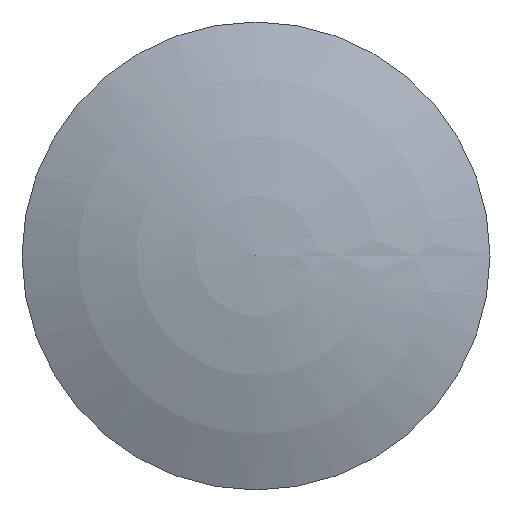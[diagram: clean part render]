
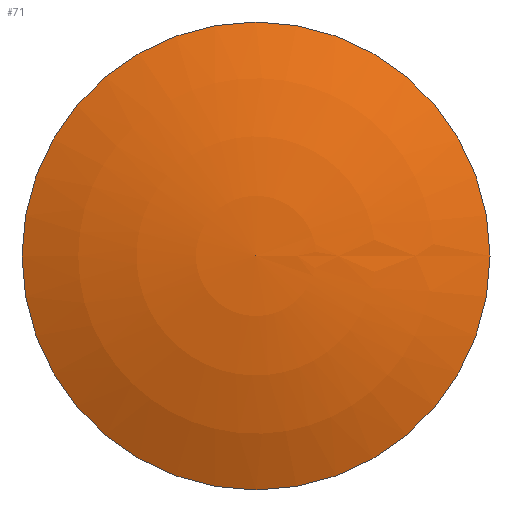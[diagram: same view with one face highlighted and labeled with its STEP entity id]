
A CAD part, top view. The second image highlights one B-rep face of the part: STEP entity #71.
In plain terms, the highlighted spherical face has radius 47.125 mm.
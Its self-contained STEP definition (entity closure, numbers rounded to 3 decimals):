
#15=SPHERICAL_SURFACE('',#84,47.125);
#29=FACE_OUTER_BOUND('',#39,.T.);
#39=EDGE_LOOP('',(#64));
#44=CIRCLE('',#83,19.);
#49=VERTEX_POINT('',#123);
#54=EDGE_CURVE('',#49,#49,#44,.T.);
#64=ORIENTED_EDGE('',*,*,#54,.T.);
#71=ADVANCED_FACE('',(#29),#15,.T.);
#83=AXIS2_PLACEMENT_3D('',#124,#105,#106);
#84=AXIS2_PLACEMENT_3D('',#125,#107,#108);
#105=DIRECTION('center_axis',(0.,0.,1.));
#106=DIRECTION('ref_axis',(1.,0.,0.));
#107=DIRECTION('center_axis',(0.,0.,1.));
#108=DIRECTION('ref_axis',(1.,0.,0.));
#123=CARTESIAN_POINT('',(19.,0.,0.));
#124=CARTESIAN_POINT('Origin',(0.,0.,0.));
#125=CARTESIAN_POINT('Origin',(0.,0.,-43.125));
